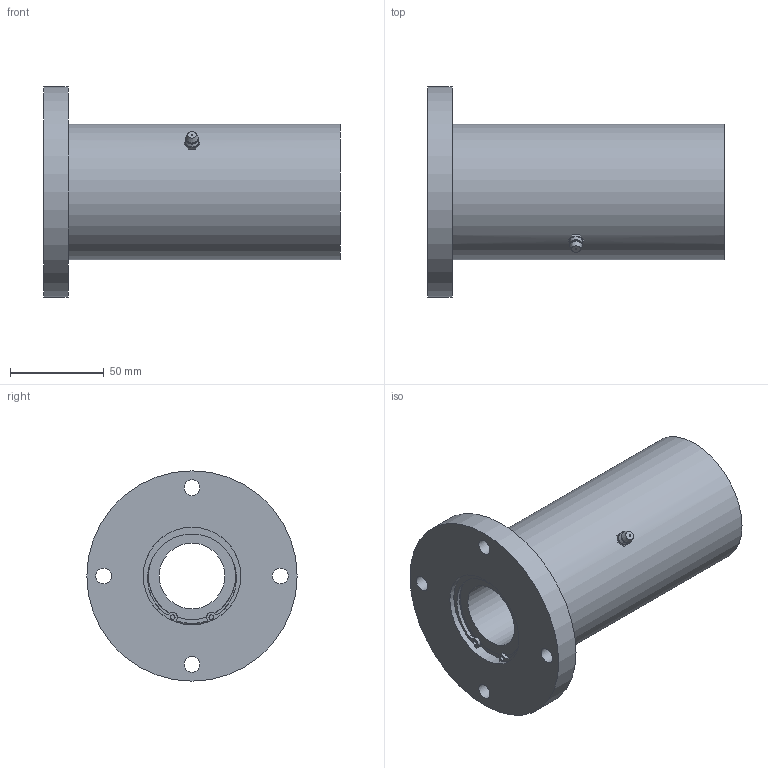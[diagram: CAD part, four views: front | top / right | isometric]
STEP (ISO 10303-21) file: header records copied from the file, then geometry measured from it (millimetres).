
FILE_DESCRIPTION((''),'2;1');
FILE_NAME('D:\製品 (図面)\カタログ用3D\リニアベアリング関連(改)\STEP形式\LFW-OH\LFW35-OH.stp','2010-01-22T16:17:50',('Tsuchiya'),(''),'Autodesk Inventor 10','Autodesk Inventor 10','');
FILE_SCHEMA(('AUTOMOTIVE_DESIGN { 1 0 10303 214 1 1 1 1 }'));
Length unit declared in the file: millimetre
Products named in the file (1): LFW35-OH
Bounding box: 158 x 112 x 112 mm (x, y, z)
Volume: 551029.8 mm3; surface area: 84296.5 mm2
Topology: 1 solids, 7 shells, 105 faces, 260 edges, 160 vertices
Faces by surface type: bspline 36, plane 31, cylinder 27, cone 7, sphere 2, torus 2
Full cylindrical faces by diameter (mm): 2.5 x2, 8.376 x4, 35 x2, 46.4 x2, 49 x2, 52 x8, 72 x1, 112 x1
Entity records: 3221 total; most frequent: CARTESIAN_POINT 950, DIRECTION 484, ORIENTED_EDGE 404, AXIS2_PLACEMENT_3D 224, EDGE_CURVE 202, EDGE_LOOP 178, CIRCLE 150, VERTEX_POINT 142
